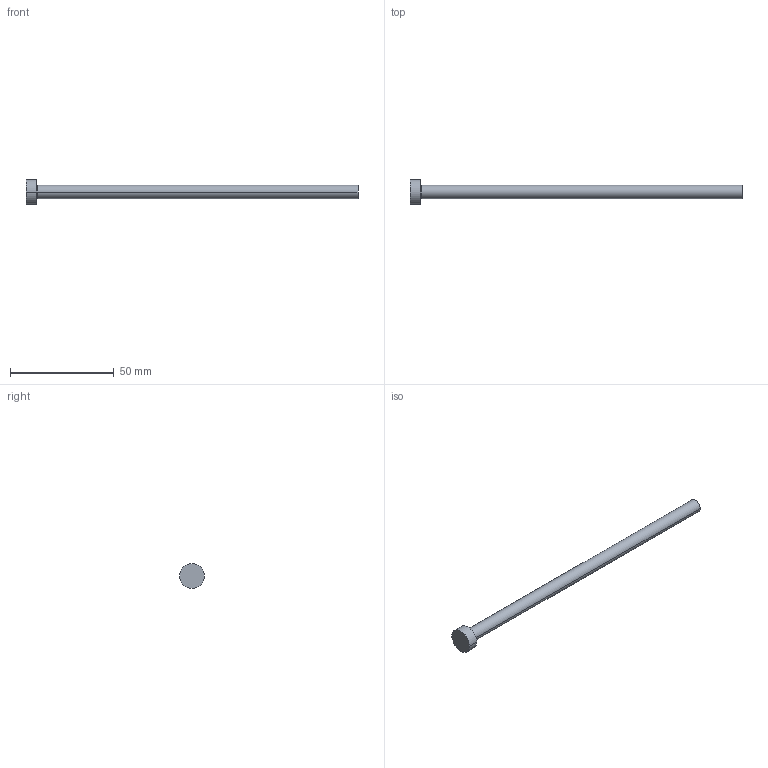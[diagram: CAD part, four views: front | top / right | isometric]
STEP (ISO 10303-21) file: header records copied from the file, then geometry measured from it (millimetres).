
FILE_DESCRIPTION (( 'STEP AP214' ), '1' );
FILE_NAME ('A-6,5x160.STEP', '2020-05-29T15:38:41', ( 'August' ), ( '' ), 'SwSTEP 2.0', 'SolidWorks 2018', '' );
FILE_SCHEMA (( 'AUTOMOTIVE_DESIGN' ));
Length unit declared in the file: millimetre
Products named in the file (1): A-6,5x160
Bounding box: 160 x 12 x 12 mm (x, y, z)
Volume: 5710 mm3; surface area: 3575.6 mm2
Topology: 1 solids, 1 shells, 9 faces, 16 edges, 10 vertices
Faces by surface type: cylinder 4, plane 3, torus 2
Entity records: 260 total; most frequent: DIRECTION 48, CARTESIAN_POINT 36, ORIENTED_EDGE 32, AXIS2_PLACEMENT_3D 22, EDGE_CURVE 16, CIRCLE 12, EDGE_LOOP 10, VERTEX_POINT 10
